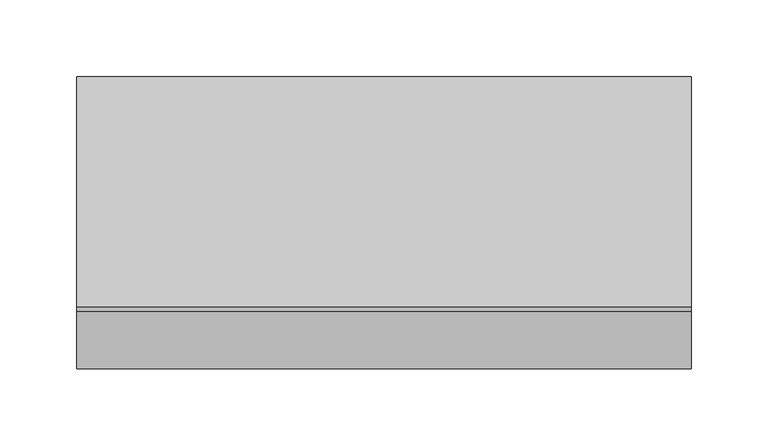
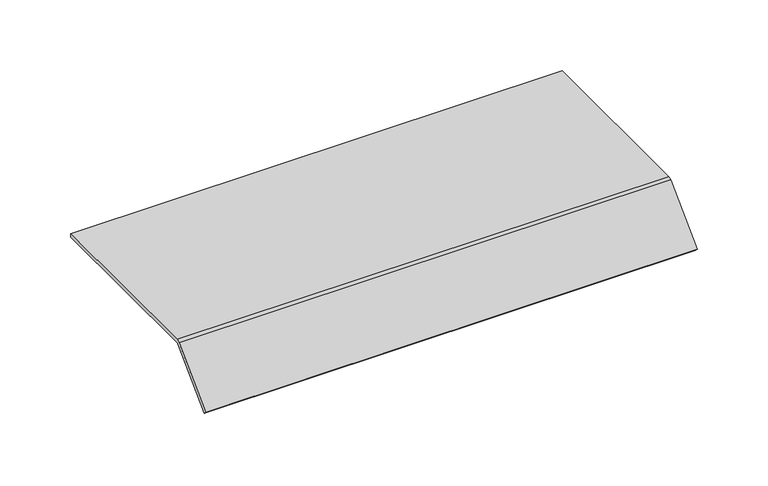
"""IFC4 building model written with IfcOpenShell, lengths in millimetres: proxy geometry, Electrical_Installation_Hager_Blank-Cover-400mm-Single-Sided-Height-40mm : Electrical_Installation_Hager_Blank-Cover-400mm-Single-Sided-Height-40mm."""

from ifc_helpers import new_model, si_unit, point, frame, frame_2d, origin, place, context, project, spatial, polyline, circle_curve, trimmed, segment, composite_curve, outline, extrude, source, transform, mapped, element, save


def electrical_fixtures_f748b149(model_context):
    return source(origin(), model_context, "Body", "SweptSolid", [
        extrude(outline(composite_curve([segment(polyline([(75.0, 25.5), (75.0, 22.5), (-74.8229541, 22.5)]), True, "CONTINUOUS"), segment(trimmed(circle_curve(frame_2d((-74.8229541, 21.0725733)), 1.4274267), [point((-74.8229541, 22.5))], [point((-75.8322972, 22.0819164))], True, "CARTESIAN"), True, "CONTINUOUS"), segment(polyline([(-75.8322972, 22.0819164), (-112.91729, -15.0030764), (-115.0386103, -12.8817561), (-77.8206472, 24.336207)]), True, "CONTINUOUS"), segment(trimmed(circle_curve(frame_2d((-75.0110025, 21.5265623)), 3.9734377), [point((-77.8206472, 24.336207))], [point((-75.0110025, 25.5))], False, "CARTESIAN"), True, "CONTINUOUS"), segment(polyline([(-75.0110025, 25.5), (75.0, 25.5)]), True, "CONTINUOUS")], self_intersect=False)), frame((0.0, 0.0, 0.0), z_axis=(1.0, 0.0, 0.0), x_axis=(0.0, 1.0, 0.0)), (0.0, 0.0, 1.0), 400.0),
    ])


if __name__ == "__main__":
    model = new_model("IFC4")
    model_context = context("Model", 3, world=origin())
    ifc_project = project(units=[si_unit("LENGTHUNIT", "METRE", prefix="MILLI")], contexts=[model_context])
    site = spatial("IfcSite", under=ifc_project)
    building = spatial("IfcBuilding", under=site)
    placement = place(None, origin())
    electrical_fixtures_shape = electrical_fixtures_f748b149(model_context)
    element("IfcBuildingElementProxy", 1, Name="Electrical_Installation_Hager_Blank-Cover-400mm-Single-Sided-Height-40mm : Electrical_Installation_Hager_Blank-Cover-400mm-Single-Sided-Height-40mm", ObjectType="Electrical_Installation_Hager_Blank-Cover-400mm-Single-Sided-Height-40mm : Electrical_Installation_Hager_Blank-Cover-400mm-Single-Sided-Height-40mm", at=placement, inside=building, context=model_context, shape_type="MappedRepresentation", body=[
        mapped(electrical_fixtures_shape, transform((0.0, 0.0, 0.0), x_axis=(1.0, 0.0, 0.0), y_axis=(0.0, 1.0, 0.0), z_axis=(0.0, 0.0, 1.0))),
    ])
    save(model, "model.ifc")
